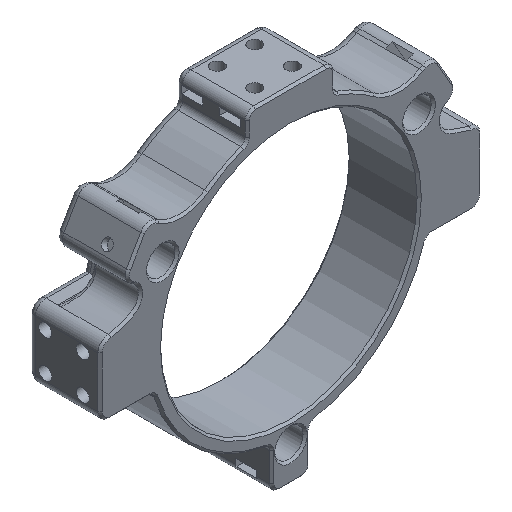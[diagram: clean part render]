
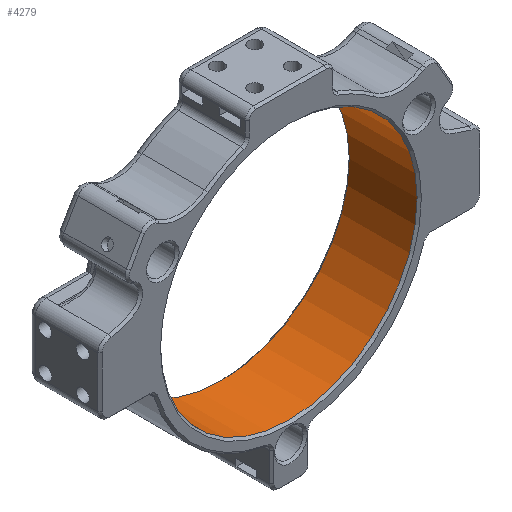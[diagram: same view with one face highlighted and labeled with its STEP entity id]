
A CAD part, isometric view. The second image highlights one B-rep face of the part: STEP entity #4279.
In plain terms, the highlighted cylindrical face has radius 60.5 mm (diameter 121 mm), a full revolution.
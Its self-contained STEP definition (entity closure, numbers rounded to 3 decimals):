
#179=CYLINDRICAL_SURFACE('',#4663,60.5);
#415=FACE_OUTER_BOUND('',#711,.T.);
#711=EDGE_LOOP('',(#3411,#3412,#3413,#3414));
#1073=LINE('',#7429,#1413);
#1413=VECTOR('',#5591,60.5);
#1654=CIRCLE('',#4662,60.5);
#1655=CIRCLE('',#4664,60.5);
#2001=VERTEX_POINT('',#7423);
#2002=VERTEX_POINT('',#7427);
#2507=EDGE_CURVE('',#2001,#2001,#1654,.T.);
#2508=EDGE_CURVE('',#2002,#2002,#1655,.T.);
#2509=EDGE_CURVE('',#2002,#2001,#1073,.T.);
#3411=ORIENTED_EDGE('',*,*,#2508,.F.);
#3412=ORIENTED_EDGE('',*,*,#2509,.T.);
#3413=ORIENTED_EDGE('',*,*,#2507,.F.);
#3414=ORIENTED_EDGE('',*,*,#2509,.F.);
#4279=ADVANCED_FACE('',(#415),#179,.F.);
#4662=AXIS2_PLACEMENT_3D('',#7425,#5585,#5586);
#4663=AXIS2_PLACEMENT_3D('',#7426,#5587,#5588);
#4664=AXIS2_PLACEMENT_3D('',#7428,#5589,#5590);
#5585=DIRECTION('center_axis',(0.,1.,0.));
#5586=DIRECTION('ref_axis',(1.,0.,0.));
#5587=DIRECTION('center_axis',(0.,1.,0.));
#5588=DIRECTION('ref_axis',(1.,0.,0.));
#5589=DIRECTION('center_axis',(0.,-1.,0.));
#5590=DIRECTION('ref_axis',(1.,0.,0.));
#5591=DIRECTION('',(0.,-1.,0.));
#7423=CARTESIAN_POINT('',(-60.5,-16.,0.));
#7425=CARTESIAN_POINT('Origin',(0.,-16.,0.));
#7426=CARTESIAN_POINT('Origin',(0.,0.,0.));
#7427=CARTESIAN_POINT('',(-60.5,16.,0.));
#7428=CARTESIAN_POINT('Origin',(0.,16.,0.));
#7429=CARTESIAN_POINT('',(-60.5,0.,0.));
